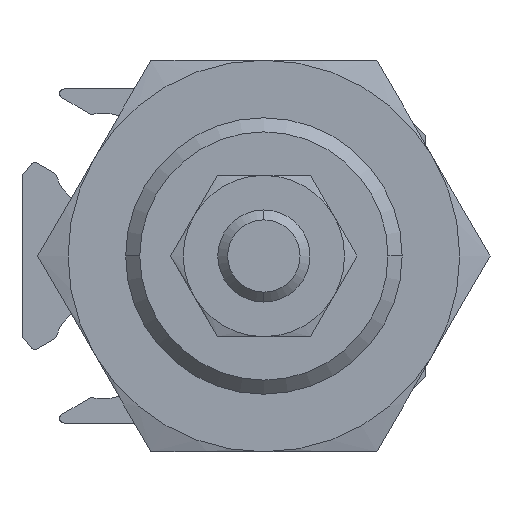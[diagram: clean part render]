
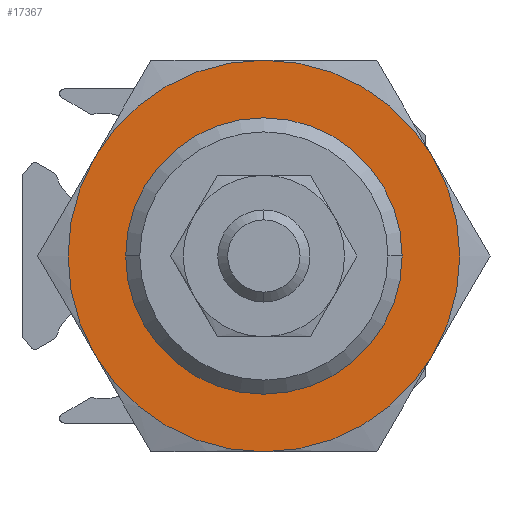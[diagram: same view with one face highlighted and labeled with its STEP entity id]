
A CAD part, left-side view. The second image highlights one B-rep face of the part: STEP entity #17367.
In plain terms, the highlighted planar face has unit normal (-1, 0, 0).
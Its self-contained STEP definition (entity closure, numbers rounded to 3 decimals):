
#21 = ORIENTED_EDGE ( 'NONE', *, *, #7351, .T. ) ;
#155 = ORIENTED_EDGE ( 'NONE', *, *, #19952, .T. ) ;
#255 = CARTESIAN_POINT ( 'NONE',  ( -1.5, 0., 0. ) ) ;
#260 = VERTEX_POINT ( 'NONE', #3008 ) ;
#384 = CIRCLE ( 'NONE', #11271, 6. ) ;
#566 = DIRECTION ( 'NONE',  ( 0., 0., -1. ) ) ;
#976 = CARTESIAN_POINT ( 'NONE',  ( -1.5, 0., 0. ) ) ;
#1348 = VERTEX_POINT ( 'NONE', #2177 ) ;
#1382 = CARTESIAN_POINT ( 'NONE',  ( -1.5, -7.361, -4.25 ) ) ;
#1657 = EDGE_LOOP ( 'NONE', ( #10543, #5346 ) ) ;
#2177 = CARTESIAN_POINT ( 'NONE',  ( -1.5, 7.361, -4.25 ) ) ;
#2513 = FACE_OUTER_BOUND ( 'NONE', #11687, .T. ) ;
#2797 = CARTESIAN_POINT ( 'NONE',  ( -1.5, 0., 0. ) ) ;
#3008 = CARTESIAN_POINT ( 'NONE',  ( -1.5, 0., -6. ) ) ;
#3279 = DIRECTION ( 'NONE',  ( 0., 0., -1. ) ) ;
#3759 = VERTEX_POINT ( 'NONE', #11725 ) ;
#5113 = CARTESIAN_POINT ( 'NONE',  ( -1.5, 0., 0. ) ) ;
#5265 = CIRCLE ( 'NONE', #12569, 6. ) ;
#5328 = DIRECTION ( 'NONE',  ( -1., 0., 0. ) ) ;
#5346 = ORIENTED_EDGE ( 'NONE', *, *, #8032, .T. ) ;
#5934 = DIRECTION ( 'NONE',  ( 0., 0., -1. ) ) ;
#6649 = DIRECTION ( 'NONE',  ( 0., 0., -1. ) ) ;
#6950 = CARTESIAN_POINT ( 'NONE',  ( -1.5, 0., 0. ) ) ;
#6958 = VERTEX_POINT ( 'NONE', #17043 ) ;
#7115 = CIRCLE ( 'NONE', #12920, 8.5 ) ;
#7351 = EDGE_CURVE ( 'NONE', #6958, #3759, #7115, .T. ) ;
#7407 = EDGE_CURVE ( 'NONE', #1348, #8915, #13826, .T. ) ;
#7974 = DIRECTION ( 'NONE',  ( -1., 0., 0. ) ) ;
#8032 = EDGE_CURVE ( 'NONE', #260, #15920, #384, .T. ) ;
#8224 = ORIENTED_EDGE ( 'NONE', *, *, #15333, .T. ) ;
#8382 = VERTEX_POINT ( 'NONE', #19299 ) ;
#8566 = AXIS2_PLACEMENT_3D ( 'NONE', #19082, #9634, #6649 ) ;
#8915 = VERTEX_POINT ( 'NONE', #17978 ) ;
#9266 = CIRCLE ( 'NONE', #16651, 8.5 ) ;
#9385 = ORIENTED_EDGE ( 'NONE', *, *, #7407, .T. ) ;
#9530 = CIRCLE ( 'NONE', #8566, 8.5 ) ;
#9634 = DIRECTION ( 'NONE',  ( -1., 0., 0. ) ) ;
#10543 = ORIENTED_EDGE ( 'NONE', *, *, #20334, .T. ) ;
#10791 = EDGE_CURVE ( 'NONE', #8382, #6958, #13073, .T. ) ;
#10896 = VERTEX_POINT ( 'NONE', #1382 ) ;
#10897 = AXIS2_PLACEMENT_3D ( 'NONE', #13328, #16497, #18071 ) ;
#11271 = AXIS2_PLACEMENT_3D ( 'NONE', #6950, #16510, #11664 ) ;
#11320 = DIRECTION ( 'NONE',  ( -1., 0., 0. ) ) ;
#11352 = CIRCLE ( 'NONE', #14468, 8.5 ) ;
#11438 = CARTESIAN_POINT ( 'NONE',  ( -1.5, 0., 0. ) ) ;
#11664 = DIRECTION ( 'NONE',  ( 0., 0., 1. ) ) ;
#11687 = EDGE_LOOP ( 'NONE', ( #12552, #21, #19752, #9385, #155, #8224 ) ) ;
#11713 = PLANE ( 'NONE',  #10897 ) ;
#11725 = CARTESIAN_POINT ( 'NONE',  ( -1.5, 7.361, 4.25 ) ) ;
#12552 = ORIENTED_EDGE ( 'NONE', *, *, #10791, .T. ) ;
#12569 = AXIS2_PLACEMENT_3D ( 'NONE', #5113, #19351, #16208 ) ;
#12920 = AXIS2_PLACEMENT_3D ( 'NONE', #17466, #7974, #20463 ) ;
#13073 = CIRCLE ( 'NONE', #17151, 8.5 ) ;
#13328 = CARTESIAN_POINT ( 'NONE',  ( -1.5, 8.5, 0. ) ) ;
#13782 = DIRECTION ( 'NONE',  ( -1., 0., 0. ) ) ;
#13826 = CIRCLE ( 'NONE', #19230, 8.5 ) ;
#13983 = DIRECTION ( 'NONE',  ( -1., 0., 0. ) ) ;
#14468 = AXIS2_PLACEMENT_3D ( 'NONE', #255, #11320, #3279 ) ;
#15333 = EDGE_CURVE ( 'NONE', #10896, #8382, #11352, .T. ) ;
#15347 = DIRECTION ( 'NONE',  ( 0., 0., -1. ) ) ;
#15920 = VERTEX_POINT ( 'NONE', #17055 ) ;
#16208 = DIRECTION ( 'NONE',  ( 0., 0., 1. ) ) ;
#16497 = DIRECTION ( 'NONE',  ( -1., 0., 0. ) ) ;
#16510 = DIRECTION ( 'NONE',  ( 1., 0., 0. ) ) ;
#16651 = AXIS2_PLACEMENT_3D ( 'NONE', #2797, #13983, #5934 ) ;
#16900 = FACE_BOUND ( 'NONE', #1657, .T. ) ;
#17043 = CARTESIAN_POINT ( 'NONE',  ( -1.5, 0., 8.5 ) ) ;
#17055 = CARTESIAN_POINT ( 'NONE',  ( -1.5, 0., 6. ) ) ;
#17151 = AXIS2_PLACEMENT_3D ( 'NONE', #976, #13782, #15347 ) ;
#17367 = ADVANCED_FACE ( 'NONE', ( #2513, #16900 ), #11713, .T. ) ;
#17466 = CARTESIAN_POINT ( 'NONE',  ( -1.5, 0., 0. ) ) ;
#17978 = CARTESIAN_POINT ( 'NONE',  ( -1.5, 0., -8.5 ) ) ;
#18071 = DIRECTION ( 'NONE',  ( 0., 0., 1. ) ) ;
#19082 = CARTESIAN_POINT ( 'NONE',  ( -1.5, 0., 0. ) ) ;
#19230 = AXIS2_PLACEMENT_3D ( 'NONE', #11438, #5328, #566 ) ;
#19299 = CARTESIAN_POINT ( 'NONE',  ( -1.5, -7.361, 4.25 ) ) ;
#19351 = DIRECTION ( 'NONE',  ( 1., 0., 0. ) ) ;
#19414 = EDGE_CURVE ( 'NONE', #3759, #1348, #9530, .T. ) ;
#19752 = ORIENTED_EDGE ( 'NONE', *, *, #19414, .T. ) ;
#19952 = EDGE_CURVE ( 'NONE', #8915, #10896, #9266, .T. ) ;
#20334 = EDGE_CURVE ( 'NONE', #15920, #260, #5265, .T. ) ;
#20463 = DIRECTION ( 'NONE',  ( 0., 0., -1. ) ) ;
